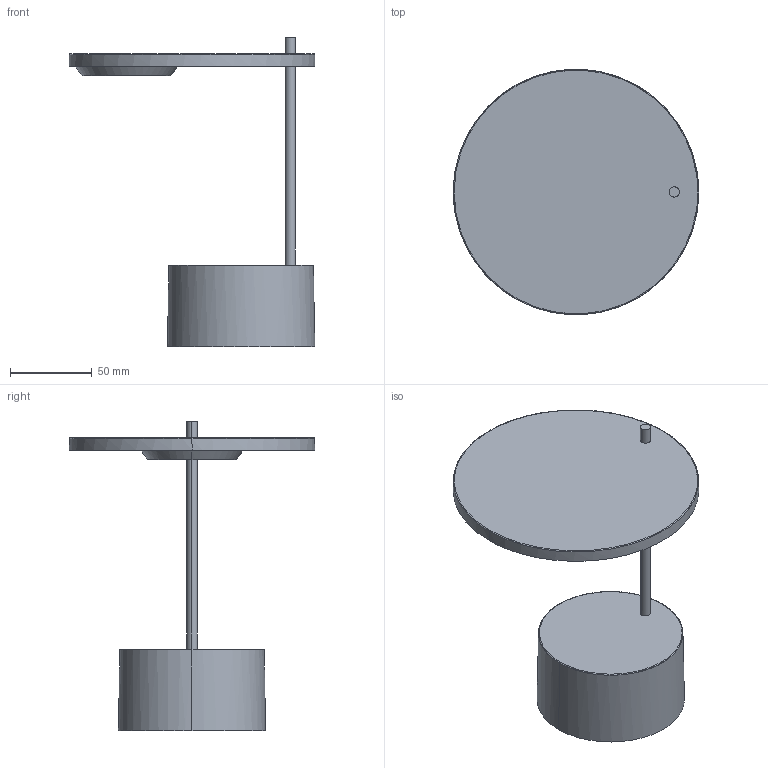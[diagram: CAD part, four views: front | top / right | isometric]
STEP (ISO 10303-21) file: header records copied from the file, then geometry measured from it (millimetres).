
FILE_DESCRIPTION(/* description */ (''),/* implementation_level */ '2;1');
FILE_NAME(/* name */ 'orbiter parete_soffitto',/* time_stamp */ '2016-05-18T17:49:17+02:00',/* author */ (''),/* organization */ (''),/* preprocessor_version */ 'ST-DEVELOPER v10',/* originating_system */ '',/* authorisation */ '');
FILE_SCHEMA (('CONFIG_CONTROL_DESIGN'));
Length unit declared in the file: millimetre
Products named in the file (1): 1
Bounding box: 150 x 149.71 x 188.8 mm (x, y, z)
Volume: 4322.3 mm3; surface area: 69916.3 mm2
Topology: 1 solids, 6 shells, 34 faces, 72 edges, 48 vertices
Faces by surface type: bspline 24, plane 10
Entity records: 1266 total; most frequent: CARTESIAN_POINT 761, ORIENTED_EDGE 128, EDGE_CURVE 72, VERTEX_POINT 48, EDGE_LOOP 40, ADVANCED_FACE 34, FACE_OUTER_BOUND 34, DIRECTION 16
